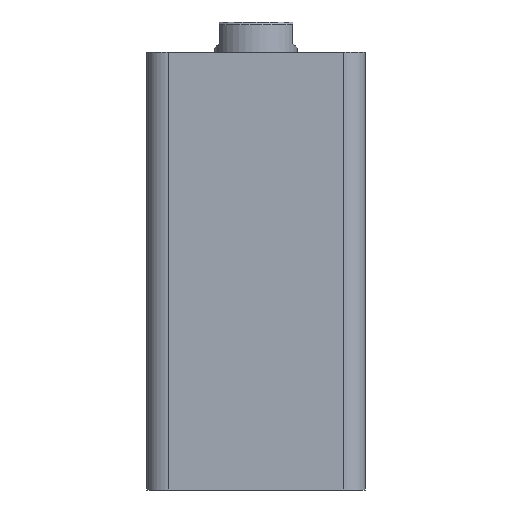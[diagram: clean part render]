
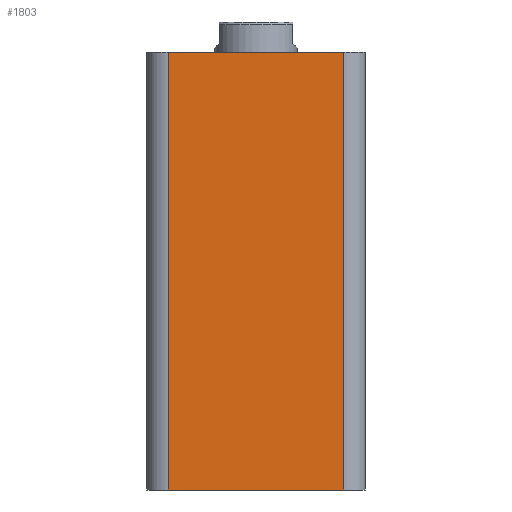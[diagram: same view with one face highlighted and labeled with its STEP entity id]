
A CAD part, front view. The second image highlights one B-rep face of the part: STEP entity #1803.
In plain terms, the highlighted planar face has unit normal (0, -1, 0).
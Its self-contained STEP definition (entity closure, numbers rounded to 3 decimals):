
#354 = VERTEX_POINT ( 'NONE', #1603 ) ;
#411 = VERTEX_POINT ( 'NONE', #1730 ) ;
#415 = VERTEX_POINT ( 'NONE', #1725 ) ;
#481 = VERTEX_POINT ( 'NONE', #1651 ) ;
#526 = CARTESIAN_POINT ( 'NONE',  ( -40., -40., 160. ) ) ;
#527 = DIRECTION ( 'NONE',  ( 0., 0., 1. ) ) ;
#540 = DIRECTION ( 'NONE',  ( 0., 1., 0. ) ) ;
#618 = PLANE ( 'NONE',  #2406 ) ;
#810 = EDGE_LOOP ( 'NONE', ( #1023, #1025, #1027, #1030 ) ) ;
#1023 = ORIENTED_EDGE ( 'NONE', *, *, #1382, .F. ) ;
#1025 = ORIENTED_EDGE ( 'NONE', *, *, #1383, .T. ) ;
#1027 = ORIENTED_EDGE ( 'NONE', *, *, #1384, .T. ) ;
#1030 = ORIENTED_EDGE ( 'NONE', *, *, #1385, .T. ) ;
#1116 = VECTOR ( 'NONE', #1932, 1000. ) ;
#1120 = VECTOR ( 'NONE', #1945, 1000. ) ;
#1124 = LINE ( 'NONE', #1944, #1116 ) ;
#1133 = VECTOR ( 'NONE', #1938, 1000. ) ;
#1153 = VECTOR ( 'NONE', #1975, 1000. ) ;
#1154 = LINE ( 'NONE', #1973, #1120 ) ;
#1155 = LINE ( 'NONE', #1948, #1133 ) ;
#1161 = LINE ( 'NONE', #1956, #1153 ) ;
#1382 = EDGE_CURVE ( 'NONE', #481, #411, #1161, .T. ) ;
#1383 = EDGE_CURVE ( 'NONE', #481, #354, #1155, .T. ) ;
#1384 = EDGE_CURVE ( 'NONE', #354, #415, #1154, .T. ) ;
#1385 = EDGE_CURVE ( 'NONE', #415, #411, #1124, .T. ) ;
#1603 = CARTESIAN_POINT ( 'NONE',  ( -32., -40., 0. ) ) ;
#1651 = CARTESIAN_POINT ( 'NONE',  ( -32., -40., 160. ) ) ;
#1725 = CARTESIAN_POINT ( 'NONE',  ( 32., -40., 0. ) ) ;
#1730 = CARTESIAN_POINT ( 'NONE',  ( 32., -40., 160. ) ) ;
#1803 = ADVANCED_FACE ( 'NONE', ( #2144 ), #618, .F. ) ;
#1932 = DIRECTION ( 'NONE',  ( 0., 0., 1. ) ) ;
#1938 = DIRECTION ( 'NONE',  ( 0., 0., -1. ) ) ;
#1944 = CARTESIAN_POINT ( 'NONE',  ( 32., -40., 160. ) ) ;
#1945 = DIRECTION ( 'NONE',  ( 1., 0., 0. ) ) ;
#1948 = CARTESIAN_POINT ( 'NONE',  ( -32., -40., 160. ) ) ;
#1956 = CARTESIAN_POINT ( 'NONE',  ( -40., -40., 160. ) ) ;
#1973 = CARTESIAN_POINT ( 'NONE',  ( -40., -40., 0. ) ) ;
#1975 = DIRECTION ( 'NONE',  ( 1., 0., 0. ) ) ;
#2144 = FACE_OUTER_BOUND ( 'NONE', #810, .T. ) ;
#2406 = AXIS2_PLACEMENT_3D ( 'NONE', #526, #540, #527 ) ;
